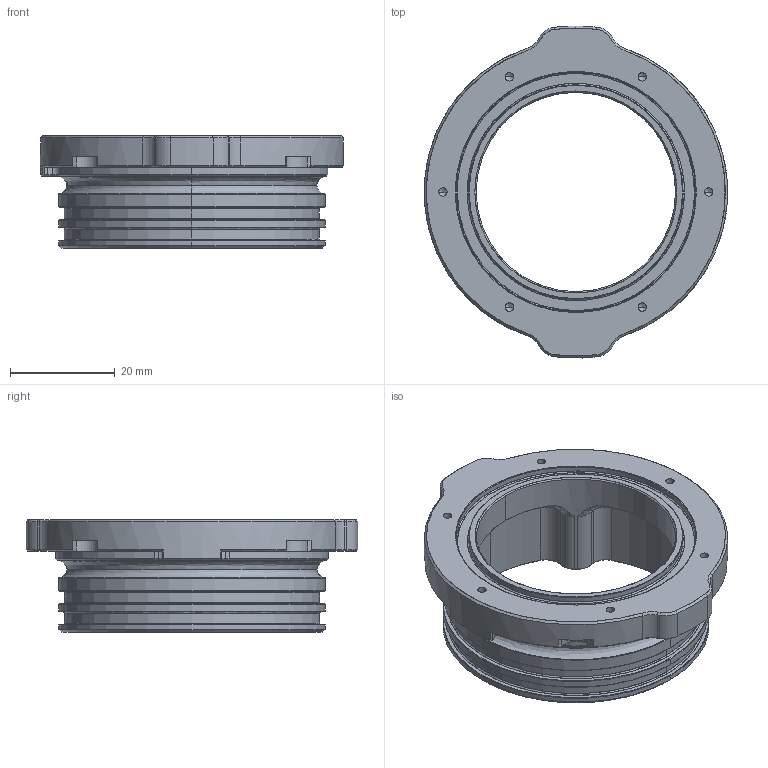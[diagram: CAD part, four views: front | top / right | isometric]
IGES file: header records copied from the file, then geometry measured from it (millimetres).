
Start section: SolidWorks IGES file using analytic representation for surfaces
Global section: file name: C:\Users\Achilles\Desktop\wte2 2020\WTE2-M-LOCKING-FLANGE-R1\WTE2-M-LOCKING-FLANGE-R1.IGS; native system: SolidWorks 2020; preprocessor: SolidWorks 2020; author: Achilles; date: 191112.110126; units: millimetre
Bounding box: 57.94 x 63.44 x 21.5 mm (x, y, z)
Surface area: 10983.5 mm2 (no closed solid volume)
Topology: 0 solids, 0 shells, 284 faces, 3105 edges, 3085 vertices
Faces by surface type: revolution 197, bspline 87
